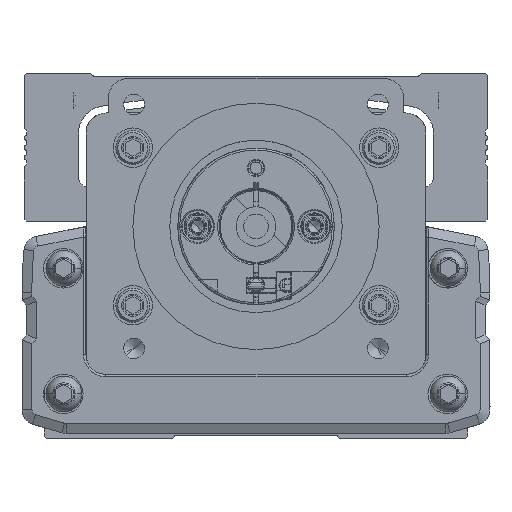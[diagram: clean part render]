
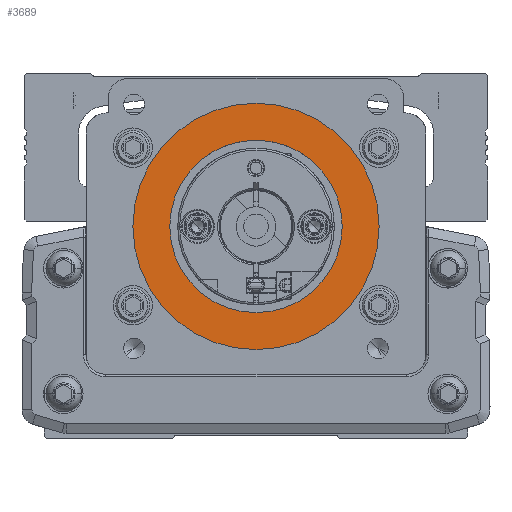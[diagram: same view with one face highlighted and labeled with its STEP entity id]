
A CAD part, front view. The second image highlights one B-rep face of the part: STEP entity #3689.
In plain terms, the highlighted planar face has unit normal (0, -1, 0).
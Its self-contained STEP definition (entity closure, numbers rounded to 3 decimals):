
#3689=ADVANCED_FACE('',(#10266,#10267),#10268,.T.);
#10266=FACE_BOUND('',#20467,.T.);
#10267=FACE_OUTER_BOUND('',#20468,.T.);
#10268=PLANE('',#20469);
#20467=EDGE_LOOP('',(#32770,#32771));
#20468=EDGE_LOOP('',(#32772,#32773));
#20469=AXIS2_PLACEMENT_3D('',#32774,#32775,#32776);
#32770=ORIENTED_EDGE('',*,*,#60925,.T.);
#32771=ORIENTED_EDGE('',*,*,#60926,.T.);
#32772=ORIENTED_EDGE('',*,*,#60927,.F.);
#32773=ORIENTED_EDGE('',*,*,#60928,.F.);
#32774=CARTESIAN_POINT('',(0.,-360.778,0.));
#32775=DIRECTION('',(0.,-1.0,0.));
#32776=DIRECTION('',(1.0,0.,0.));
#60925=EDGE_CURVE('',#72500,#72501,#72502,.T.);
#60926=EDGE_CURVE('',#72501,#72500,#72503,.T.);
#60927=EDGE_CURVE('',#72504,#72505,#72506,.T.);
#60928=EDGE_CURVE('',#72505,#72504,#72507,.T.);
#72500=VERTEX_POINT('',#89212);
#72501=VERTEX_POINT('',#89213);
#72502=CIRCLE('',#89214,17.5);
#72503=CIRCLE('',#89215,17.5);
#72504=VERTEX_POINT('',#89216);
#72505=VERTEX_POINT('',#89217);
#72506=CIRCLE('',#89218,25.0);
#72507=CIRCLE('',#89219,25.0);
#89212=CARTESIAN_POINT('',(17.5,-360.778,0.));
#89213=CARTESIAN_POINT('',(-17.5,-360.778,0.));
#89214=AXIS2_PLACEMENT_3D('',#112051,#112052,#112053);
#89215=AXIS2_PLACEMENT_3D('',#112054,#112055,#112056);
#89216=CARTESIAN_POINT('',(25.,-360.778,0.));
#89217=CARTESIAN_POINT('',(-25.,-360.778,0.));
#89218=AXIS2_PLACEMENT_3D('',#112057,#112058,#112059);
#89219=AXIS2_PLACEMENT_3D('',#112060,#112061,#112062);
#112051=CARTESIAN_POINT('',(0.,-360.778,0.));
#112052=DIRECTION('',(0.,1.0,0.));
#112053=DIRECTION('',(-1.0,0.,0.));
#112054=CARTESIAN_POINT('',(0.,-360.778,0.));
#112055=DIRECTION('',(0.,1.0,0.));
#112056=DIRECTION('',(-1.0,0.,0.));
#112057=CARTESIAN_POINT('',(0.,-360.778,0.));
#112058=DIRECTION('',(0.,1.0,0.));
#112059=DIRECTION('',(1.0,0.,0.));
#112060=CARTESIAN_POINT('',(0.,-360.778,0.));
#112061=DIRECTION('',(0.,1.0,0.));
#112062=DIRECTION('',(1.0,0.,0.));
